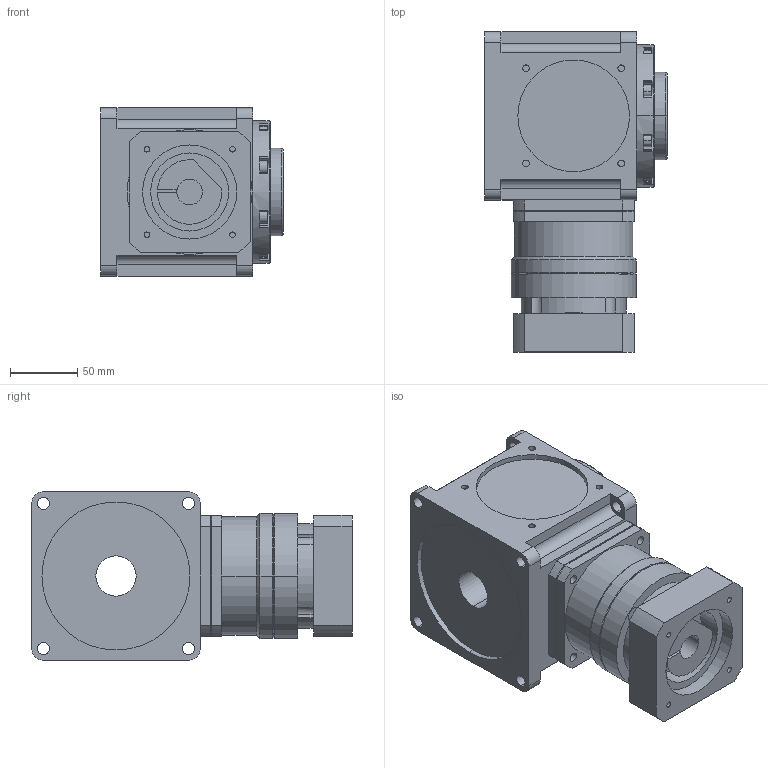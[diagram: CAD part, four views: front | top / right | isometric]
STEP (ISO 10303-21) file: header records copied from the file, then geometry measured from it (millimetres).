
FILE_DESCRIPTION (( 'STEP AP214' ), '1' );
FILE_NAME ('CCW125A-L2(6~20)-RF 19-70-90-M6.STEP', '2025-05-23T00:52:07', ( '微软用户' ), ( '微软中国' ), 'SwSTEP 2.0', 'SolidWorks 2024', '' );
FILE_SCHEMA (( 'AUTOMOTIVE_DESIGN' ));
Length unit declared in the file: millimetre
Products named in the file (3): CCW125A-002-RF箱体; CCW125A-L2(6~20)-RF 19-70-90-M6; VRB-090-L1-S2-P1 19-70-90-M5
Assembly tree (2 placements, depth 2):
  CCW125A-L2(6~20)-RF 19-70-90-M6
    VRB-090-L1-S2-P1 19-70-90-M5
    CCW125A-002-RF箱体
Bounding box: 135.5 x 238 x 125 mm (x, y, z)
Volume: 2387766.5 mm3; surface area: 194287.9 mm2
Topology: 2 solids, 2 shells, 508 faces, 1201 edges, 741 vertices
Faces by surface type: cylinder 217, plane 187, torus 45, cone 43, sphere 16
Entity records: 14772 total; most frequent: DIRECTION 2770, CARTESIAN_POINT 2572, ORIENTED_EDGE 2366, EDGE_CURVE 1183, AXIS2_PLACEMENT_3D 1101, VERTEX_POINT 741, EDGE_LOOP 596, CIRCLE 588
